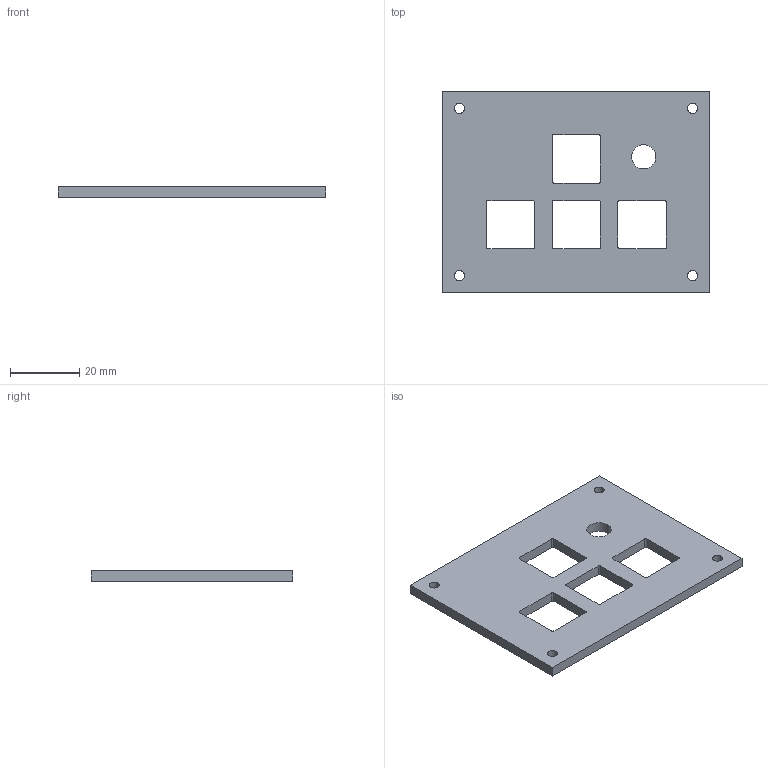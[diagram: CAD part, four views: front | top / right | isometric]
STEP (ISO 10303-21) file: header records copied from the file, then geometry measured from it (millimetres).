
FILE_DESCRIPTION(/* description */ ('STEP AP242 Edition 2','CAx-IF Rec.Pracs.---Representation and Presentation of Product Manufacturing Information (PMI)---4.0---2014-10-13','CAx-IF Rec.Pracs.---3D Tessellated Geometry---0.4---2014-09-14','2;1','CAx-IF Rec.Pracs.---User Defined Attributes---1.5---2016-08-15'),/* implementation_level */ '2;1');
FILE_NAME(/* name */ 'Part Studio 1 - Part 2',/* time_stamp */ '2026-08-15T07:22:08Z',/* author */ (''),/* organization */ (''),/* preprocessor_version */ 'ST-DEVELOPER v20',/* originating_system */ 'ONSHAPE BY PTC INC, 1.219',/* authorisation */ ' ');
FILE_SCHEMA (('AP242_MANAGED_MODEL_BASED_3D_ENGINEERING_MIM_LF { 1 0 10303 442 3 1 4 }'));
Length unit declared in the file: metre
Products named in the file (1): Part 2
Bounding box: 77.4 x 58.4 x 3 mm (x, y, z)
Volume: 11016.3 mm3; surface area: 8996 mm2
Topology: 1 solids, 1 shells, 43 faces, 123 edges, 82 vertices
Faces by surface type: plane 22, cylinder 21
Full cylindrical faces by diameter (mm): 2.9 x4, 7 x1
Entity records: 1452 total; most frequent: DIRECTION 248, CARTESIAN_POINT 244, ORIENTED_EDGE 236, EDGE_CURVE 118, AXIS2_PLACEMENT_3D 86, VERTEX_POINT 82, LINE 76, VECTOR 76
